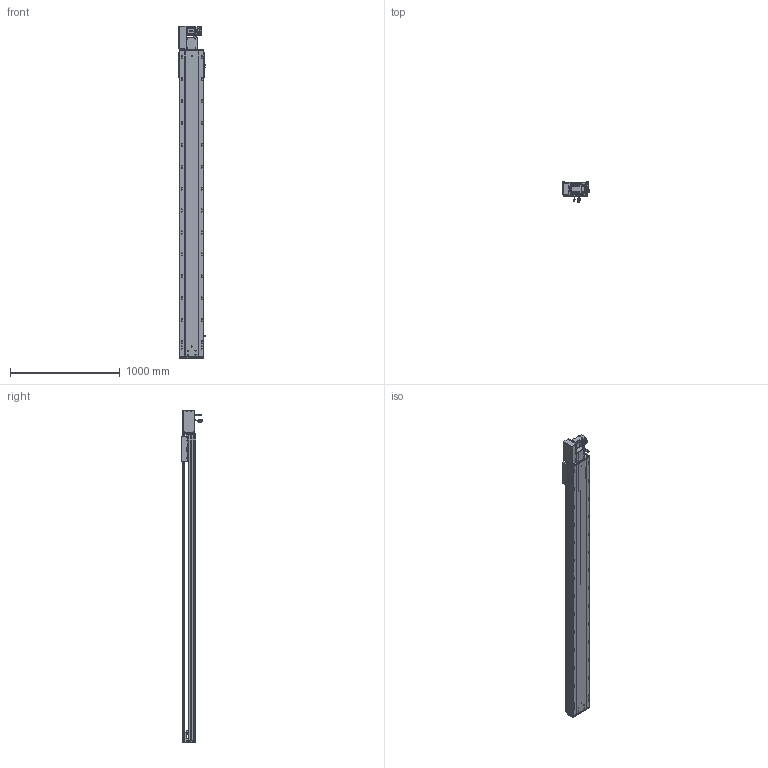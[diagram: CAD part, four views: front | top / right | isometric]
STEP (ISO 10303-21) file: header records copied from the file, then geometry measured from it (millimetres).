
FILE_DESCRIPTION (( 'STEP AP203' ), '1' );
FILE_NAME ('RY220-T-300-LK.SLDASM_2450.step', '2022-07-25T08:15:51', ( '' ), ( '' ), 'SwSTEP 2.0', 'SolidWorks 2016', '' );
FILE_SCHEMA (( 'CONFIG_CONTROL_DESIGN' ));
Length unit declared in the file: millimetre
Products named in the file (14): RY220-T-300-奻裔啣_2450; RY220-T菁釱-300_2450; RY220-T-300-LK.SLDASM_2450; RY220翋肮祭謫釱; RY220-T-湍謫欶(鍼踢); 110A-T-肮祭謫釱傷裔; RY220-俋离672覜茼んえ; RY220-T-蛌殏萇儂假蚾啣(750W); RY220-同步轮副支撑座6304×2; RY220圉猾敕々湍臏賑輸; 滅袉蝶18-15; 怢湛750W_ECMA-CX0807ES; 覜茼ん672; RY220翋肮祭謫裔啣
Assembly tree (18 placements, depth 2):
  RY220-T-300-LK.SLDASM_2450
    RY220-T菁釱-300_2450
    RY220翋肮祭謫釱
    覜茼ん672  x3
    RY220圉猾敕々湍臏賑輸
    RY220-T-300-奻裔啣_2450
    RY220-俋离672覜茼んえ
    滅袉蝶18-15  x3
    RY220翋肮祭謫裔啣  x2
    110A-T-肮祭謫釱傷裔
    怢湛750W_ECMA-CX0807ES
    RY220-T-湍謫欶(鍼踢)
    RY220-T-蛌殏萇儂假蚾啣(750W)
    RY220-同步轮副支撑座6304×2
Bounding box: 239.7 x 198.77 x 3029 mm (x, y, z)
Volume: 21640523.3 mm3; surface area: 6639730.6 mm2
Topology: 19 solids, 19 shells, 2928 faces, 8099 edges, 5086 vertices
Faces by surface type: cylinder 1432, plane 1069, cone 345, bspline 56, sphere 16, torus 10
Entity records: 97683 total; most frequent: CARTESIAN_POINT 27637, ORIENTED_EDGE 14490, DIRECTION 13932, EDGE_CURVE 7245, AXIS2_PLACEMENT_3D 5010, VERTEX_POINT 4710, LINE 3912, VECTOR 3912
